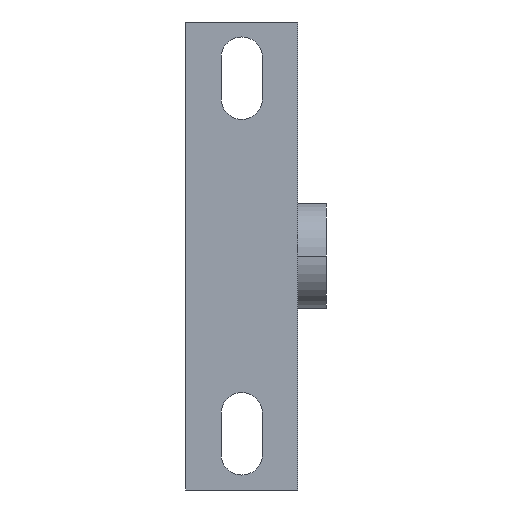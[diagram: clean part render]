
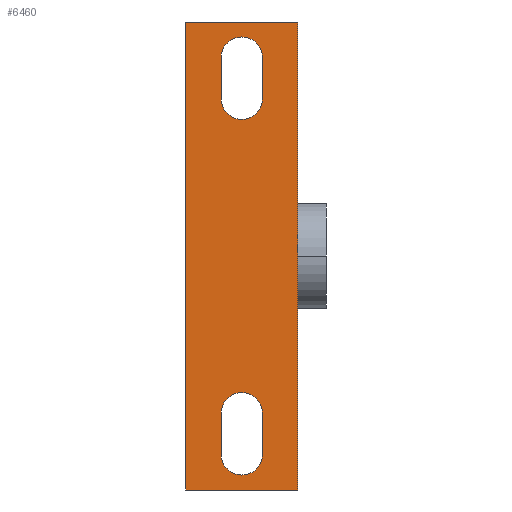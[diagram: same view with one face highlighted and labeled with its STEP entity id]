
A CAD part, front view. The second image highlights one B-rep face of the part: STEP entity #6460.
In plain terms, the highlighted planar face has unit normal (0, -1, 0).
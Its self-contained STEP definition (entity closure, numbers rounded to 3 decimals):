
#540=CARTESIAN_POINT('',(-5.5,-30.2,42.));
#550=VERTEX_POINT('VERTEX545',#540);
#580=CARTESIAN_POINT('',(-5.5,-30.2,52.25));
#590=DIRECTION('',(0.,0.,1.));
#600=VECTOR('',#590,1.);
#610=LINE('',#580,#600);
#620=CARTESIAN_POINT('',(-5.5,-30.2,53.));
#630=VERTEX_POINT('VERTEX544',#620);
#640=EDGE_CURVE('EDGE837',#550,#630,#610,.T.);
#940=CARTESIAN_POINT('',(5.5,-30.2,42.));
#950=VERTEX_POINT('VERTEX547',#940);
#980=CARTESIAN_POINT('',(0.,-30.2,42.));
#990=DIRECTION('',(0.,1.,0.));
#1000=DIRECTION('',(1.,0.,0.));
#1010=AXIS2_PLACEMENT_3D('',#980,#990,#1000);
#1020=CIRCLE('',#1010,5.5);
#1030=EDGE_CURVE('EDGE840',#950,#550,#1020,.T.);
#1270=CARTESIAN_POINT('',(5.5,-30.2,53.));
#1280=VERTEX_POINT('VERTEX549',#1270);
#1310=CARTESIAN_POINT('',(5.5,-30.2,57.75));
#1320=DIRECTION('',(0.,0.,-1.));
#1330=VECTOR('',#1320,1.);
#1340=LINE('',#1310,#1330);
#1350=EDGE_CURVE('EDGE843',#1280,#950,#1340,.T.);
#1530=CARTESIAN_POINT('',(0.,-30.2,53.));
#1540=DIRECTION('',(0.,1.,0.));
#1550=DIRECTION('',(-1.,0.,0.));
#1560=AXIS2_PLACEMENT_3D('',#1530,#1540,#1550);
#1570=CIRCLE('',#1560,5.5);
#1580=EDGE_CURVE('EDGE846',#630,#1280,#1570,.T.);
#1900=CARTESIAN_POINT('',(15.,-30.2,-62.5));
#1910=VERTEX_POINT('',#1900);
#1940=CARTESIAN_POINT('',(15.,-30.2,0.));
#1950=DIRECTION('',(0.,0.,1.));
#1960=VECTOR('',#1950,1.);
#1970=LINE('',#1940,#1960);
#1980=CARTESIAN_POINT('',(15.,-30.2,62.5));
#1990=VERTEX_POINT('',#1980);
#2000=EDGE_CURVE('',#1910,#1990,#1970,.T.);
#2380=CARTESIAN_POINT('',(5.5,-30.2,-53.));
#2390=VERTEX_POINT('VERTEX564',#2380);
#2420=CARTESIAN_POINT('',(0.,-30.2,-53.));
#2430=DIRECTION('',(0.,1.,0.));
#2440=DIRECTION('',(1.,0.,0.));
#2450=AXIS2_PLACEMENT_3D('',#2420,#2430,#2440);
#2460=CIRCLE('',#2450,5.5);
#2470=CARTESIAN_POINT('',(-5.5,-30.2,-53.));
#2480=VERTEX_POINT('VERTEX563',#2470);
#2490=EDGE_CURVE('EDGE860',#2390,#2480,#2460,.T.);
#2750=CARTESIAN_POINT('',(-5.5,-30.2,4.75));
#2760=DIRECTION('',(0.,0.,1.));
#2770=VECTOR('',#2760,1.);
#2780=LINE('',#2750,#2770);
#2790=CARTESIAN_POINT('',(-5.5,-30.2,-42.));
#2800=VERTEX_POINT('VERTEX566',#2790);
#2810=EDGE_CURVE('EDGE864',#2480,#2800,#2780,.T.);
#3060=CARTESIAN_POINT('',(0.,-30.2,-42.));
#3070=DIRECTION('',(0.,1.,0.));
#3080=DIRECTION('',(-1.,0.,0.));
#3090=AXIS2_PLACEMENT_3D('',#3060,#3070,#3080);
#3100=CIRCLE('',#3090,5.5);
#3110=CARTESIAN_POINT('',(5.5,-30.2,-42.));
#3120=VERTEX_POINT('VERTEX568',#3110);
#3130=EDGE_CURVE('EDGE867',#2800,#3120,#3100,.T.);
#3390=CARTESIAN_POINT('',(5.5,-30.2,10.25));
#3400=DIRECTION('',(0.,0.,-1.));
#3410=VECTOR('',#3400,1.);
#3420=LINE('',#3390,#3410);
#3430=EDGE_CURVE('EDGE869',#3120,#2390,#3420,.T.);
#4940=CARTESIAN_POINT('',(-15.,-30.2,62.5));
#4950=VERTEX_POINT('',#4940);
#4980=CARTESIAN_POINT('',(-15.,-30.2,0.));
#4990=DIRECTION('',(0.,0.,1.));
#5000=VECTOR('',#4990,1.);
#5010=LINE('',#4980,#5000);
#5020=CARTESIAN_POINT('',(-15.,-30.2,-62.5));
#5030=VERTEX_POINT('',#5020);
#5040=EDGE_CURVE('',#5030,#4950,#5010,.T.);
#6130=CARTESIAN_POINT('',(15.,-30.2,62.5));
#6140=DIRECTION('',(0.,-1.,0.));
#6150=DIRECTION('',(1.,0.,0.));
#6160=AXIS2_PLACEMENT_3D('',#6130,#6140,#6150);
#6170=PLANE('',#6160);
#6180=CARTESIAN_POINT('',(0.,-30.2,62.5));
#6190=DIRECTION('',(-1.,0.,0.));
#6200=VECTOR('',#6190,1.);
#6210=LINE('',#6180,#6200);
#6220=EDGE_CURVE('',#1990,#4950,#6210,.T.);
#6230=ORIENTED_EDGE('',*,*,#6220,.T.);
#6240=ORIENTED_EDGE('',*,*,#2000,.T.);
#6250=CARTESIAN_POINT('',(0.,-30.2,-62.5));
#6260=DIRECTION('',(1.,0.,0.));
#6270=VECTOR('',#6260,1.);
#6280=LINE('',#6250,#6270);
#6290=EDGE_CURVE('',#5030,#1910,#6280,.T.);
#6300=ORIENTED_EDGE('',*,*,#6290,.T.);
#6310=ORIENTED_EDGE('',*,*,#5040,.F.);
#6320=EDGE_LOOP('',(#6310,#6300,#6240,#6230));
#6330=FACE_OUTER_BOUND('',#6320,.T.);
#6340=ORIENTED_EDGE('',*,*,#3130,.T.);
#6350=ORIENTED_EDGE('',*,*,#2810,.T.);
#6360=ORIENTED_EDGE('',*,*,#2490,.T.);
#6370=ORIENTED_EDGE('',*,*,#3430,.T.);
#6380=EDGE_LOOP('',(#6370,#6360,#6350,#6340));
#6390=FACE_BOUND('',#6380,.T.);
#6400=ORIENTED_EDGE('',*,*,#640,.T.);
#6410=ORIENTED_EDGE('',*,*,#1030,.T.);
#6420=ORIENTED_EDGE('',*,*,#1350,.T.);
#6430=ORIENTED_EDGE('',*,*,#1580,.T.);
#6440=EDGE_LOOP('',(#6430,#6420,#6410,#6400));
#6450=FACE_BOUND('',#6440,.T.);
#6460=ADVANCED_FACE('',(#6330,#6390,#6450),#6170,.T.);
